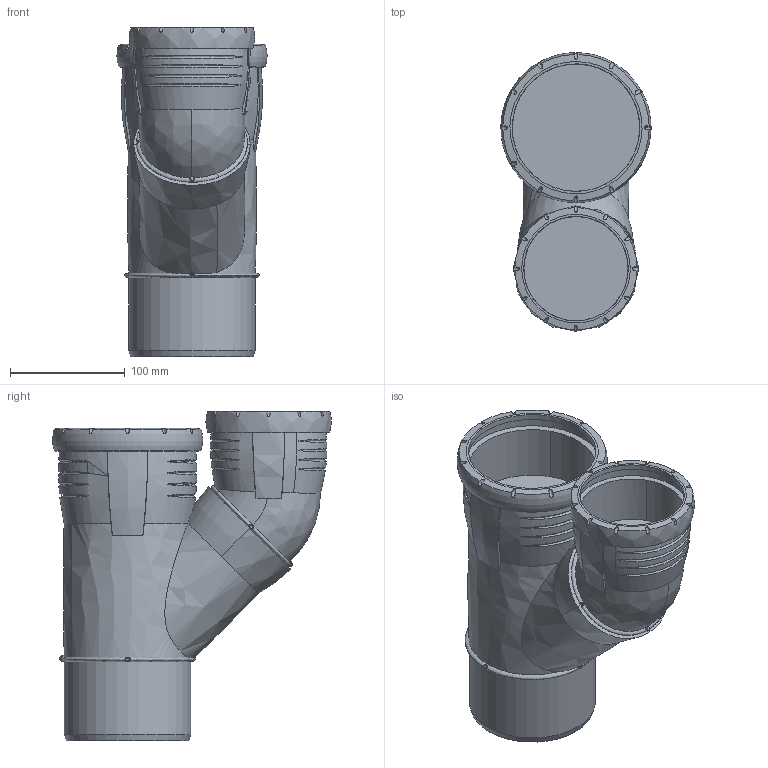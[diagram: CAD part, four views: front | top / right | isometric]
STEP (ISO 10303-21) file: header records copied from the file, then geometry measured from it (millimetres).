
FILE_DESCRIPTION(/* description */ (''),/* implementation_level */ '2;1');
FILE_NAME(/* name */ 'H:\Geberit-Teile\Export\393.551.14.1\stp\393551.stp',/* time_stamp */ '2017-11-13T11:05:35+01:00',/* author */ ('seihe2'),/* organization */ (''),/* preprocessor_version */ 'ST-DEVELOPER v15.2',/* originating_system */ 'Autodesk Inventor 2014',/* authorisation */ '');
FILE_SCHEMA (('AUTOMOTIVE_DESIGN { 1 0 10303 214 3 1 1 }'));
Length unit declared in the file: millimetre
Products named in the file (1): 393551
Bounding box: 130.96 x 243.23 x 287.59 mm (x, y, z)
Volume: 2585096.8 mm3; surface area: 266800.7 mm2
Topology: 2 solids, 2 shells, 144 faces, 408 edges, 275 vertices
Faces by surface type: bspline 103, cone 17, plane 12, cylinder 10, torus 2
Full cylindrical faces by diameter (mm): 91.2 x1, 100.2 x1, 101.2 x1, 110.2 x1, 111.3 x1, 121.5 x1
Entity records: 10910 total; most frequent: CARTESIAN_POINT 7952, ORIENTED_EDGE 730, EDGE_CURVE 365, DIRECTION 328, VERTEX_POINT 263, B_SPLINE_CURVE_WITH_KNOTS 218, EDGE_LOOP 182, AXIS2_PLACEMENT_3D 149
